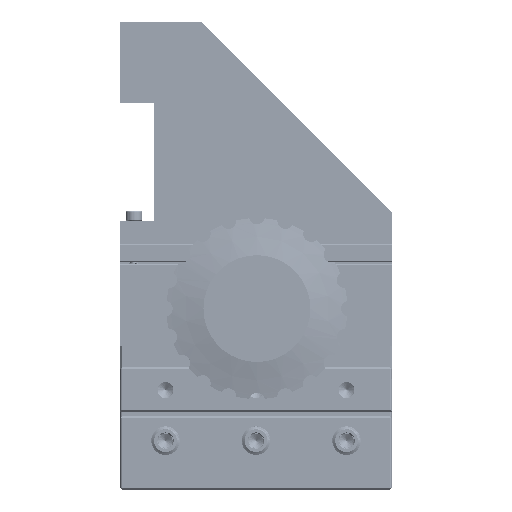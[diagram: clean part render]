
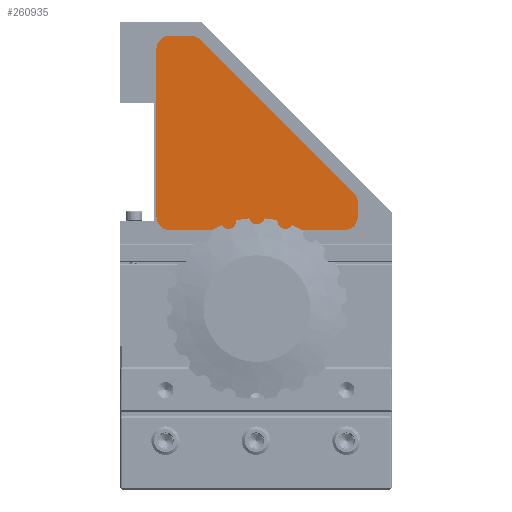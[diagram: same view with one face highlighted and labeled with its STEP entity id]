
A CAD part, left-side view. The second image highlights one B-rep face of the part: STEP entity #260935.
In plain terms, the highlighted planar face has unit normal (-1, 0, 0) as drawn and (1, 0, 0) by its records, which use the part's own axes.
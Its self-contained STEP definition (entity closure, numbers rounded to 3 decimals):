
#248546=DIRECTION('',(0.,0.,-1.));
#248547=VECTOR('',#248546,3.829);
#248548=CARTESIAN_POINT('',(-5.08,-9.525,
40.024));
#248549=LINE('',#248548,#248547);
#248558=DIRECTION('',(0.,-1.,0.));
#248559=VECTOR('',#248558,48.895);
#248560=CARTESIAN_POINT('',(-5.08,-13.335,32.385));
#248561=LINE('',#248560,#248559);
#248570=DIRECTION('',(0.,0.,1.));
#248571=VECTOR('',#248570,46.99);
#248572=CARTESIAN_POINT('',(-5.08,-66.04,36.195));
#248573=LINE('',#248572,#248571);
#248582=DIRECTION('',(0.,1.,0.));
#248583=VECTOR('',#248582,5.734);
#248584=CARTESIAN_POINT('',(-5.08,-62.23,86.995));
#248585=LINE('',#248584,#248583);
#248586=CARTESIAN_POINT('',(-5.08,-56.496,83.185));
#248587=DIRECTION('',(1.,0.,0.));
#248588=DIRECTION('',(0.,0.707,0.707));
#248589=AXIS2_PLACEMENT_3D('',#248586,#248587,#248588);
#248591=DIRECTION('',(0.,-0.707,0.707));
#248592=VECTOR('',#248591,61.039);
#248593=CARTESIAN_POINT('',(-5.08,-10.641,
42.718));
#248594=LINE('',#248593,#248592);
#248595=CARTESIAN_POINT('',(-5.08,-13.335,40.024));
#248596=DIRECTION('',(1.,0.,0.));
#248597=DIRECTION('',(0.,1.,0.));
#248598=AXIS2_PLACEMENT_3D('',#248595,#248596,#248597);
#248600=CARTESIAN_POINT('',(-5.08,-13.335,36.195));
#248601=DIRECTION('',(1.,0.,0.));
#248602=DIRECTION('',(0.,0.,-1.));
#248603=AXIS2_PLACEMENT_3D('',#248600,#248601,#248602);
#248605=CARTESIAN_POINT('',(-5.08,-62.23,36.195));
#248606=DIRECTION('',(1.,0.,0.));
#248607=DIRECTION('',(0.,-1.,0.));
#248608=AXIS2_PLACEMENT_3D('',#248605,#248606,#248607);
#248610=CARTESIAN_POINT('',(-5.08,-62.23,83.185));
#248611=DIRECTION('',(1.,0.,0.));
#248612=DIRECTION('',(0.,0.,1.));
#248613=AXIS2_PLACEMENT_3D('',#248610,#248611,#248612);
#259277=CARTESIAN_POINT('',(-5.08,-62.23,86.995));
#259278=CARTESIAN_POINT('',(-5.08,-66.04,83.185));
#259279=VERTEX_POINT('',#259277);
#259280=VERTEX_POINT('',#259278);
#259285=CARTESIAN_POINT('',(-5.08,-56.496,86.995));
#259286=VERTEX_POINT('',#259285);
#259287=CARTESIAN_POINT('',(-5.08,-66.04,36.195));
#259288=CARTESIAN_POINT('',(-5.08,-62.23,32.385));
#259289=VERTEX_POINT('',#259287);
#259290=VERTEX_POINT('',#259288);
#259329=CARTESIAN_POINT('',(-5.08,-13.335,32.385));
#259331=VERTEX_POINT('',#259329);
#259393=CARTESIAN_POINT('',(-5.08,-53.802,
85.879));
#259395=VERTEX_POINT('',#259393);
#259490=CARTESIAN_POINT('',(-5.08,-9.525,
40.024));
#259491=VERTEX_POINT('',#259490);
#259492=CARTESIAN_POINT('',(-5.08,-10.641,
42.718));
#259493=VERTEX_POINT('',#259492);
#259508=CARTESIAN_POINT('',(-5.08,-9.525,36.195));
#259509=VERTEX_POINT('',#259508);
#260918=CARTESIAN_POINT('',(-5.08,-56.496,83.185));
#260919=DIRECTION('',(1.,0.,0.));
#260920=DIRECTION('',(0.,0.,1.));
#260921=AXIS2_PLACEMENT_3D('',#260918,#260919,#260920);
#260922=PLANE('',#260921);
#260923=ORIENTED_EDGE('',*,*,#260786,.F.);
#260924=ORIENTED_EDGE('',*,*,#260801,.F.);
#260925=ORIENTED_EDGE('',*,*,#260815,.F.);
#260926=ORIENTED_EDGE('',*,*,#260829,.T.);
#260927=ORIENTED_EDGE('',*,*,#260843,.F.);
#260928=ORIENTED_EDGE('',*,*,#260857,.T.);
#260929=ORIENTED_EDGE('',*,*,#260871,.F.);
#260930=ORIENTED_EDGE('',*,*,#260885,.T.);
#260931=ORIENTED_EDGE('',*,*,#260899,.F.);
#260932=ORIENTED_EDGE('',*,*,#260912,.T.);
#260933=EDGE_LOOP('',(#260923,#260924,#260925,#260926,#260927,#260928,#260929,
#260930,#260931,#260932));
#260934=FACE_OUTER_BOUND('',#260933,.F.);
#260935=ADVANCED_FACE('',(#260934),#260922,.T.);
#248590=CIRCLE('',#248589,3.81);
#248599=CIRCLE('',#248598,3.81);
#248604=CIRCLE('',#248603,3.81);
#248609=CIRCLE('',#248608,3.81);
#248614=CIRCLE('',#248613,3.81);
#260786=EDGE_CURVE('',#259395,#259286,#248590,.T.);
#260801=EDGE_CURVE('',#259493,#259395,#248594,.T.);
#260815=EDGE_CURVE('',#259491,#259493,#248599,.T.);
#260829=EDGE_CURVE('',#259491,#259509,#248549,.T.);
#260843=EDGE_CURVE('',#259331,#259509,#248604,.T.);
#260857=EDGE_CURVE('',#259331,#259290,#248561,.T.);
#260871=EDGE_CURVE('',#259289,#259290,#248609,.T.);
#260885=EDGE_CURVE('',#259289,#259280,#248573,.T.);
#260899=EDGE_CURVE('',#259279,#259280,#248614,.T.);
#260912=EDGE_CURVE('',#259279,#259286,#248585,.T.);
